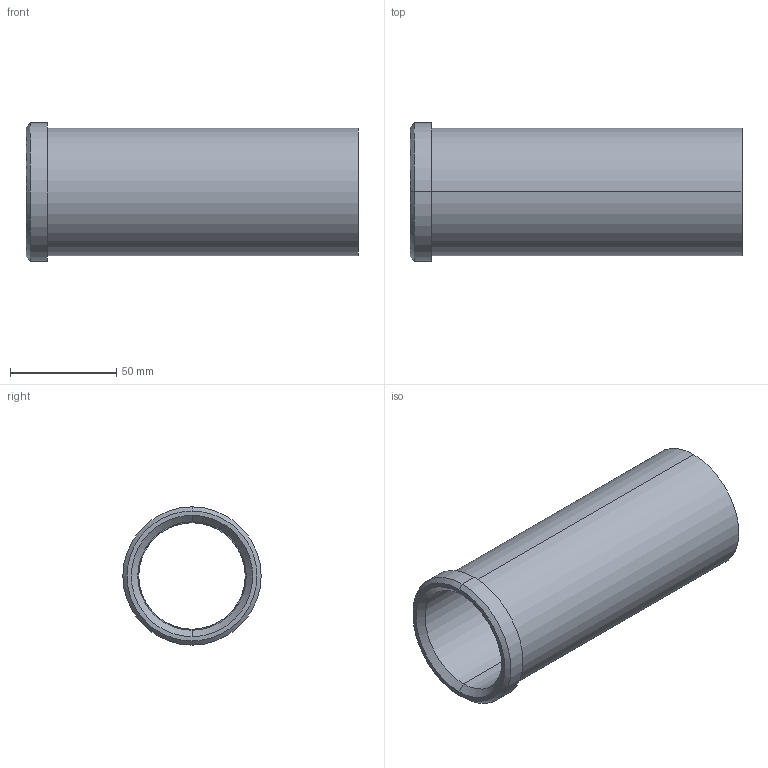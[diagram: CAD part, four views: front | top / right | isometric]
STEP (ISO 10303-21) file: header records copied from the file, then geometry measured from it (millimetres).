
FILE_DESCRIPTION(('CATIA V5 STEP Exchange'),'2;1');
FILE_NAME('C:\Users\Utente\Desktop\IO LAVORO\3D X SITO CF\X SITO\PLASTICA\353\353-50X156.stp','2021-05-14T13:25:36+00:00',('none'),('none'),'CATIA Version 5 Release 20 GA (IN-10)','CATIA V5 STEP AP203','none');
FILE_SCHEMA(('CONFIG_CONTROL_DESIGN'));
Length unit declared in the file: millimetre
Products named in the file (1): 353-50X156
Bounding box: 156 x 65 x 65 mm (x, y, z)
Volume: 133954.3 mm3; surface area: 56305 mm2
Topology: 1 solids, 1 shells, 18 faces, 58 edges, 44 vertices
Faces by surface type: cylinder 8, plane 4, cone 4, torus 2
Entity records: 840 total; most frequent: CARTESIAN_POINT 289, ORIENTED_EDGE 116, DIRECTION 82, EDGE_CURVE 58, AXIS2_PLACEMENT_3D 53, VERTEX_POINT 44, CIRCLE 34, EDGE_LOOP 22
